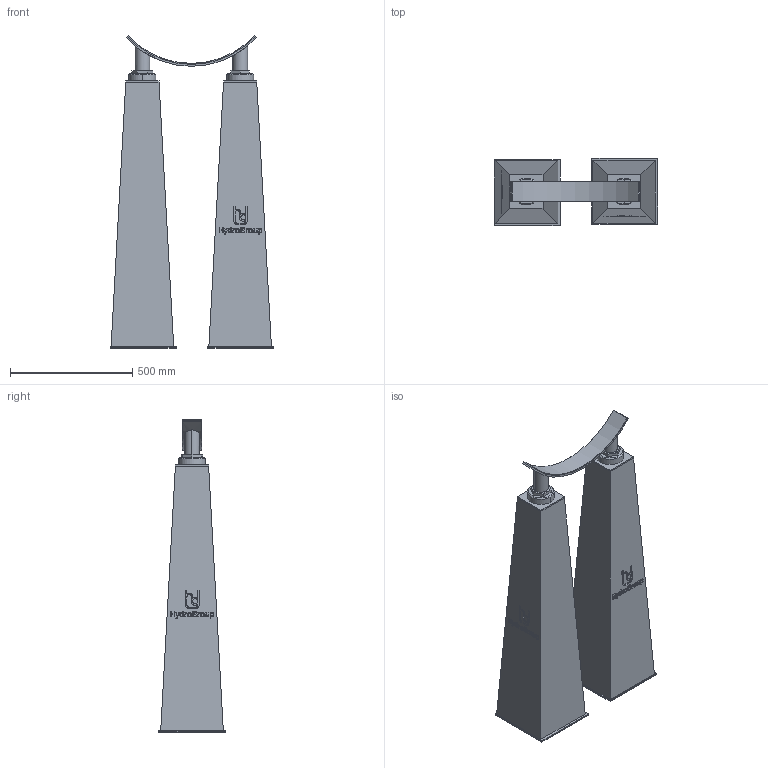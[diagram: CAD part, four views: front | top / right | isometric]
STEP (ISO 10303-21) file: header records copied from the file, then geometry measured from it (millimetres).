
FILE_DESCRIPTION(('STEP AP214'),'1');
FILE_NAME('RSRFE-IV-DUO_DN700.stp','2018-07-02T09:18:36',(' '),(' '),'Spatial InterOp 3D',' ',' ');
FILE_SCHEMA(('automotive_design'));
Length unit declared in the file: millimetre
Products named in the file (10): 1; 2; 3; 4; 5; 6; 7; 8; 9; 10
Bounding box: 670 x 276.01 x 1279.49 mm (x, y, z)
Volume: 89869804.6 mm3; surface area: 2614732.6 mm2
Topology: 10 solids, 10 shells, 408 faces, 1014 edges, 664 vertices
Faces by surface type: plane 270, cylinder 62, extrusion 48, cone 28
Entity records: 16787 total; most frequent: CARTESIAN_POINT 3694, ORIENTED_EDGE 2028, DIRECTION 1826, EDGE_CURVE 1014, VECTOR 790, LINE 742, VERTEX_POINT 664, AXIS2_PLACEMENT_3D 518
